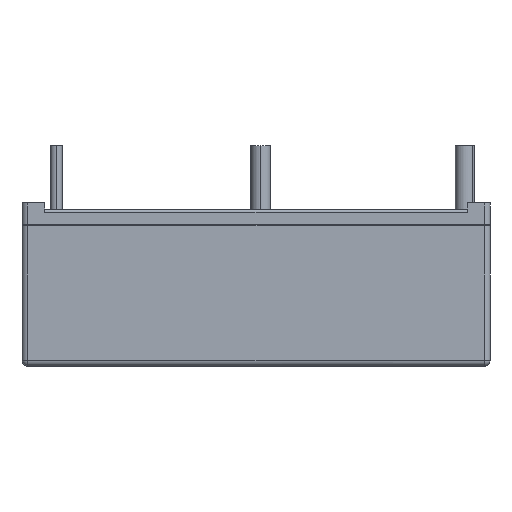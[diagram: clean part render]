
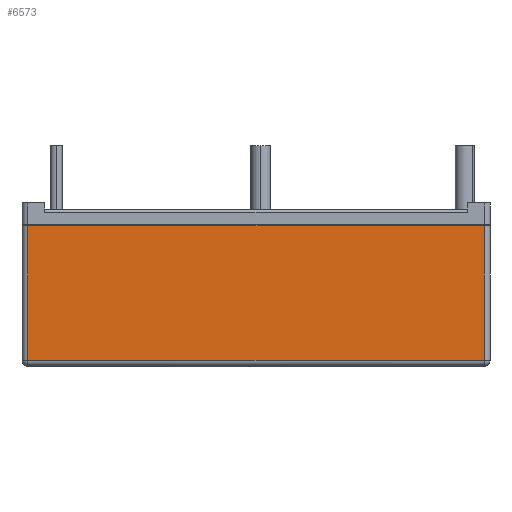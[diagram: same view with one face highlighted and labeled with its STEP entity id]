
A CAD part, front view. The second image highlights one B-rep face of the part: STEP entity #6573.
In plain terms, the highlighted planar face has unit normal (0, -1, 0).
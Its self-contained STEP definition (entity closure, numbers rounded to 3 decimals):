
#2168=DIRECTION('',(1.,0.,0.));
#2169=VECTOR('',#2168,40.);
#2170=CARTESIAN_POINT('',(244.149,-160.027,131.849));
#2171=LINE('',#2170,#2169);
#2368=DIRECTION('',(0.,0.,1.));
#2369=VECTOR('',#2368,11.8);
#2370=CARTESIAN_POINT('',(284.149,-160.027,131.849));
#2371=LINE('',#2370,#2369);
#2372=DIRECTION('',(-1.,0.,0.));
#2373=VECTOR('',#2372,40.);
#2374=CARTESIAN_POINT('',(284.149,-160.027,143.649));
#2375=LINE('',#2374,#2373);
#2376=DIRECTION('',(0.,0.,-1.));
#2377=VECTOR('',#2376,11.8);
#2378=CARTESIAN_POINT('',(244.149,-160.027,143.649));
#2379=LINE('',#2378,#2377);
#2663=CARTESIAN_POINT('',(284.149,-160.027,143.649));
#2664=VERTEX_POINT('',#2663);
#2665=CARTESIAN_POINT('',(244.149,-160.027,143.649));
#2666=VERTEX_POINT('',#2665);
#2700=CARTESIAN_POINT('',(244.149,-160.027,131.849));
#2701=VERTEX_POINT('',#2700);
#2702=CARTESIAN_POINT('',(284.149,-160.027,131.849));
#2703=VERTEX_POINT('',#2702);
#6561=CARTESIAN_POINT('',(264.149,-160.027,137.749));
#6562=DIRECTION('',(0.,1.,0.));
#6563=DIRECTION('',(0.,0.,-1.));
#6564=AXIS2_PLACEMENT_3D('',#6561,#6562,#6563);
#6565=PLANE('',#6564);
#6566=ORIENTED_EDGE('',*,*,#6483,.F.);
#6567=ORIENTED_EDGE('',*,*,#6556,.F.);
#6568=ORIENTED_EDGE('',*,*,#6350,.F.);
#6570=ORIENTED_EDGE('',*,*,#6569,.F.);
#6571=EDGE_LOOP('',(#6566,#6567,#6568,#6570));
#6572=FACE_OUTER_BOUND('',#6571,.F.);
#6573=ADVANCED_FACE('',(#6572),#6565,.F.);
#6350=EDGE_CURVE('',#2701,#2703,#2171,.T.);
#6483=EDGE_CURVE('',#2664,#2666,#2375,.T.);
#6556=EDGE_CURVE('',#2703,#2664,#2371,.T.);
#6569=EDGE_CURVE('',#2666,#2701,#2379,.T.);
